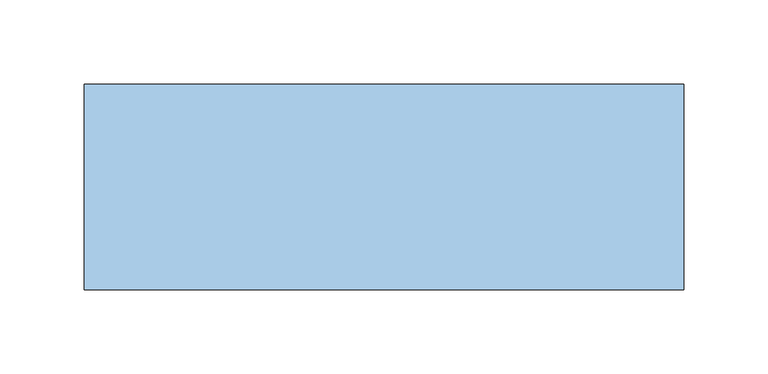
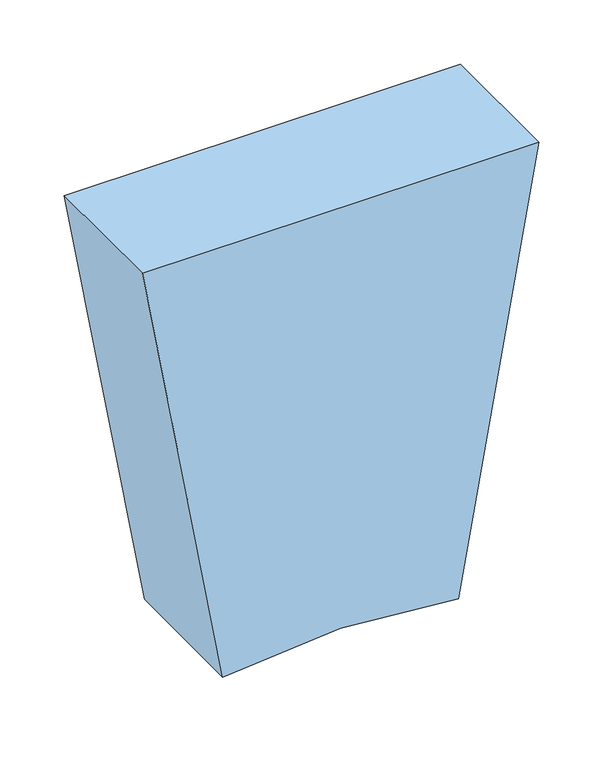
"""IFC4 building model written with IfcOpenShell, lengths in millimetres: window geometry, tn_window_3_keystone : tn_window_3_keystone."""

from ifc_helpers import new_model, si_unit, point, frame, frame_2d, origin, place, context, project, spatial, polyline, circle_curve, trimmed, segment, composite_curve, outline, extrude, source, transform, mapped, element, save


def window_f5e32f70(model_context):
    return source(origin(), model_context, "Body", "SweptSolid", [
        extrude(outline(composite_curve([segment(polyline([(3137.6908225, -177.8224188), (2729.5485777, -105.8559291)]), True, "CONTINUOUS"), segment(trimmed(circle_curve(frame_2d((2129.2097715, 0.0)), 609.6), [point((2729.5485777, -105.8559291))], [point((2729.5485777, 105.8559291))], True, "CARTESIAN"), True, "CONTINUOUS"), segment(polyline([(2729.5485777, 105.8559291), (3137.6908225, 177.8224188), (3137.6908225, -177.8224188)]), True, "CONTINUOUS")], self_intersect=False)), frame((0.0, 101.6, 0.0), z_axis=(0.0, 1.0, 0.0), x_axis=(0.0, 0.0, 1.0)), (0.0, 0.0, 1.0), 121.7859166),
    ])


if __name__ == "__main__":
    model = new_model("IFC4")
    model_context = context("Model", 3, world=origin())
    ifc_project = project(units=[si_unit("LENGTHUNIT", "METRE", prefix="MILLI")], contexts=[model_context])
    site = spatial("IfcSite", under=ifc_project)
    building = spatial("IfcBuilding", under=site)
    placement = place(None, origin())
    window_shape = window_f5e32f70(model_context)
    element("IfcWindow", 1, ObjectType="tn_window_3_keystone : tn_window_3_keystone", at=placement, inside=building, context=model_context, shape_type="MappedRepresentation", body=[
        mapped(window_shape, transform((0.0, 0.0, 0.0), x_axis=(1.0, 0.0, 0.0), y_axis=(0.0, 1.0, 0.0), z_axis=(0.0, 0.0, 1.0))),
    ])
    save(model, "model.ifc")
